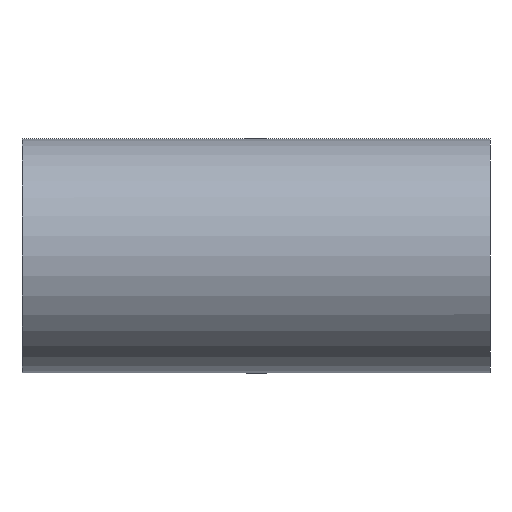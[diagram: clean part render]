
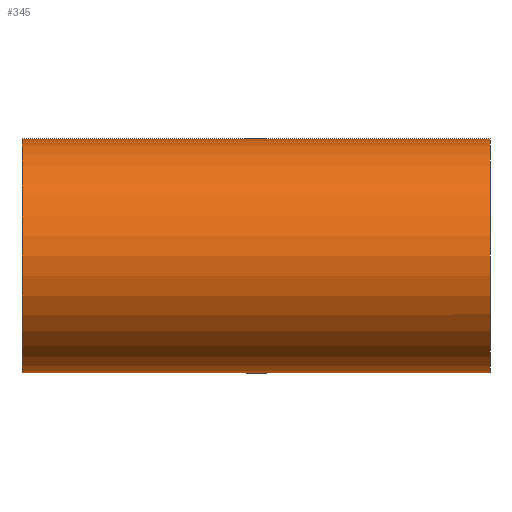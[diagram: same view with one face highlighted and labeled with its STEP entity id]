
A CAD part, left-side view. The second image highlights one B-rep face of the part: STEP entity #345.
In plain terms, the highlighted cylindrical face has radius 14 mm (diameter 28 mm), a full revolution.
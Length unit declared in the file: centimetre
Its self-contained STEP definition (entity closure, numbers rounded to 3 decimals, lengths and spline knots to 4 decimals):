
#54=FACE_BOUND('',#132,.T.);
#55=FACE_BOUND('',#133,.T.);
#78=CIRCLE('',#384,1.4);
#79=CIRCLE('',#385,1.4);
#99=FACE_OUTER_BOUND('',#131,.T.);
#131=EDGE_LOOP('',(#274));
#132=EDGE_LOOP('',(#275,#276));
#133=EDGE_LOOP('',(#277));
#151=ELLIPSE('',#357,1.9799,1.4);
#152=ELLIPSE('',#358,1.9799,1.4);
#155=VERTEX_POINT('',#489);
#156=VERTEX_POINT('',#490);
#179=VERTEX_POINT('',#3585);
#180=VERTEX_POINT('',#3587);
#185=EDGE_CURVE('',#155,#156,#151,.T.);
#186=EDGE_CURVE('',#156,#155,#152,.T.);
#216=EDGE_CURVE('',#179,#179,#78,.T.);
#217=EDGE_CURVE('',#180,#180,#79,.T.);
#274=ORIENTED_EDGE('',*,*,#216,.F.);
#275=ORIENTED_EDGE('',*,*,#185,.T.);
#276=ORIENTED_EDGE('',*,*,#186,.T.);
#277=ORIENTED_EDGE('',*,*,#217,.F.);
#301=CYLINDRICAL_SURFACE('',#383,1.4);
#345=ADVANCED_FACE('',(#99,#54,#55),#301,.T.);
#357=AXIS2_PLACEMENT_3D('',#491,#402,#403);
#358=AXIS2_PLACEMENT_3D('',#492,#404,#405);
#383=AXIS2_PLACEMENT_3D('',#3584,#457,#458);
#384=AXIS2_PLACEMENT_3D('',#3586,#459,#460);
#385=AXIS2_PLACEMENT_3D('',#3588,#461,#462);
#402=DIRECTION('center_axis',(-0.707,0.707,0.));
#403=DIRECTION('ref_axis',(0.707,0.707,0.));
#404=DIRECTION('center_axis',(-0.707,-0.707,0.));
#405=DIRECTION('ref_axis',(-0.707,0.707,0.));
#457=DIRECTION('center_axis',(0.,-1.,0.));
#458=DIRECTION('ref_axis',(1.,0.,0.));
#459=DIRECTION('center_axis',(0.,1.,0.));
#460=DIRECTION('ref_axis',(1.,0.,0.));
#461=DIRECTION('center_axis',(0.,-1.,0.));
#462=DIRECTION('ref_axis',(1.,0.,0.));
#489=CARTESIAN_POINT('',(0.,0.,1.4));
#490=CARTESIAN_POINT('',(0.,0.,-1.4));
#491=CARTESIAN_POINT('Origin',(0.,0.,0.));
#492=CARTESIAN_POINT('Origin',(0.,0.,0.));
#3584=CARTESIAN_POINT('Origin',(0.,0.,0.));
#3585=CARTESIAN_POINT('',(-1.4,2.8,0.));
#3586=CARTESIAN_POINT('Origin',(0.,2.8,0.));
#3587=CARTESIAN_POINT('',(-1.4,-2.8,0.));
#3588=CARTESIAN_POINT('Origin',(0.,-2.8,0.));
